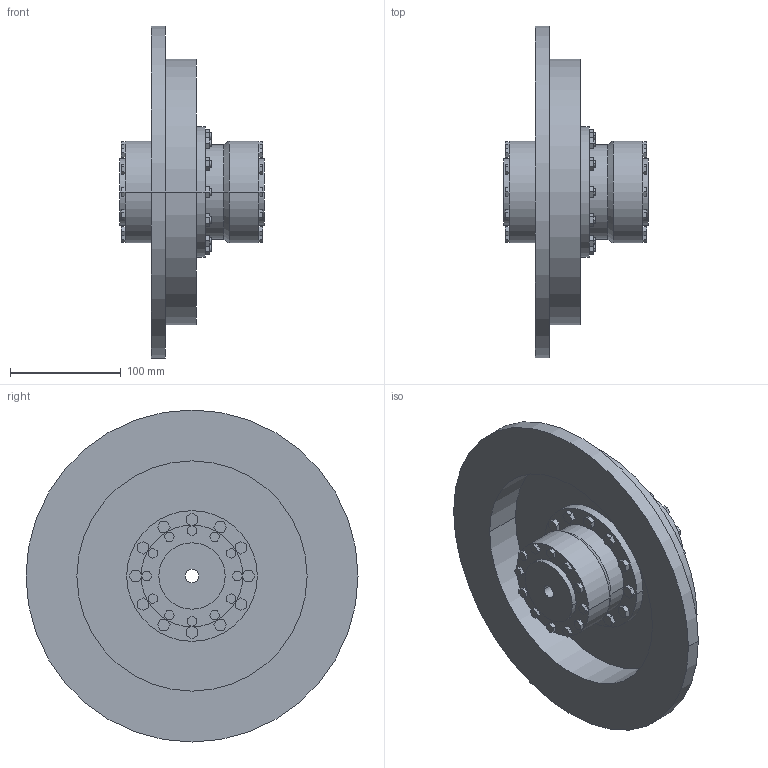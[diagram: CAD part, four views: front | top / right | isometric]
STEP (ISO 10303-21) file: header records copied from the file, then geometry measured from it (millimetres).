
FILE_DESCRIPTION((''),'2;1');
FILE_NAME('A19100600-0_ASM','2019-05-23T',('AB_Roschiwal'),('RENK AG'),'PRO/ENGINEER BY PARAMETRIC TECHNOLOGY CORPORATION, 2015440','PRO/ENGINEER BY PARAMETRIC TECHNOLOGY CORPORATION, 2015440','');
FILE_SCHEMA(('CONFIG_CONTROL_DESIGN'));
Length unit declared in the file: millimetre
Products named in the file (4): SBKT38_GEHAEUSE; SBKT38_NABE; SBKT38_BREMSSCHEIBE; A19100600-0_ASM
Assembly tree (4 placements, depth 2):
  A19100600-0_ASM
    SBKT38_GEHAEUSE
    SBKT38_NABE  x2
    SBKT38_BREMSSCHEIBE
Bounding box: 131 x 300 x 300 mm (x, y, z)
Volume: 1704536.8 mm3; surface area: 337773.4 mm2
Topology: 4 solids, 4 shells, 470 faces, 1156 edges, 768 vertices
Faces by surface type: plane 370, cylinder 96, cone 4
Entity records: 13604 total; most frequent: CARTESIAN_POINT 2350, ORIENTED_EDGE 2264, DIRECTION 2240, EDGE_CURVE 1132, VECTOR 956, LINE 956, VERTEX_POINT 752, AXIS2_PLACEMENT_3D 642
